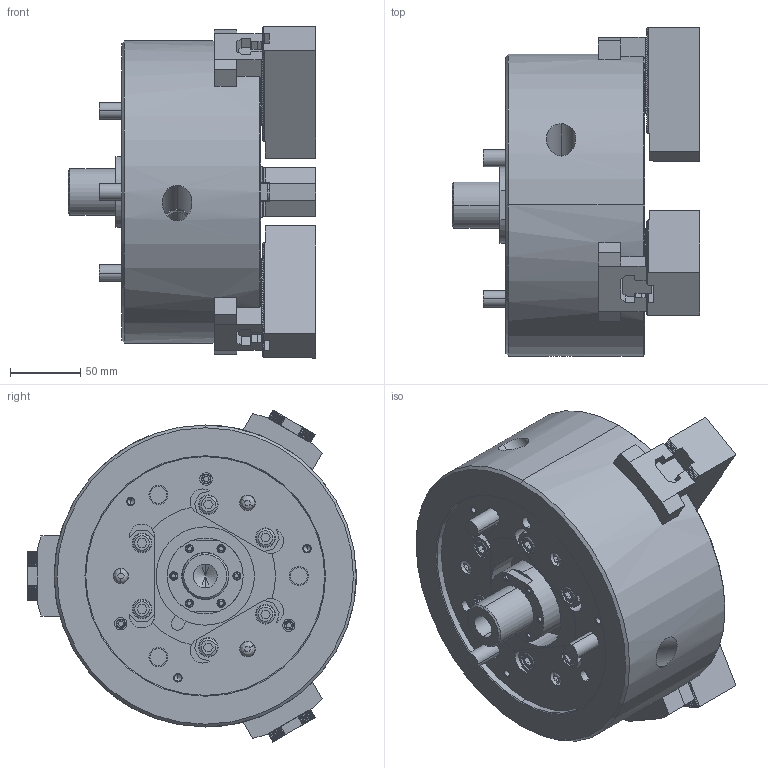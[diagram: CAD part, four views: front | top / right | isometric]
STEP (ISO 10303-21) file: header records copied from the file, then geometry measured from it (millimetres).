
FILE_DESCRIPTION (( 'STEP AP214' ), '1' );
FILE_NAME ('ML08_61P245452-6_UC.STEP', '2020-04-01T05:10:19', ( '' ), ( '' ), 'SwSTEP 2.0', 'SolidWorks 2017', '' );
FILE_SCHEMA (( 'AUTOMOTIVE_DESIGN' ));
Length unit declared in the file: millimetre
Products named in the file (5): B傾僫僣僉 M12亊30_1; 61P304291-3_ソフトジョー; 61P417260_T NUT; ML08_BASE^61P245452-6_ML08_ASSY; ML08_61P245452-6_UC
Assembly tree (13 placements, depth 2):
  ML08_61P245452-6_UC
    ML08_BASE^61P245452-6_ML08_ASSY
    61P417260_T NUT  x3
    61P304291-3_ソフトジョー  x3
    B傾僫僣僉 M12亊30_1  x6
Bounding box: 176.2 x 233.84 x 236.32 mm (x, y, z)
Volume: 3764429.2 mm3; surface area: 339198.5 mm2
Topology: 21 solids, 21 shells, 3586 faces, 10037 edges, 6614 vertices
Faces by surface type: plane 2422, cylinder 879, bspline 146, cone 139
Entity records: 87263 total; most frequent: CARTESIAN_POINT 20783, ORIENTED_EDGE 13214, DIRECTION 11097, EDGE_CURVE 6607, VECTOR 5117, LINE 5117, VERTEX_POINT 4344, AXIS2_PLACEMENT_3D 2990
